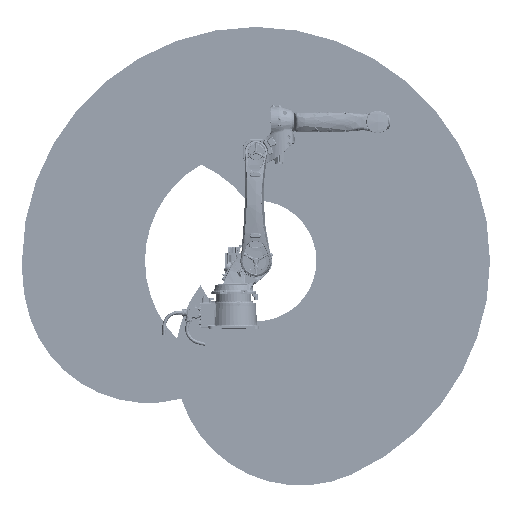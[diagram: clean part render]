
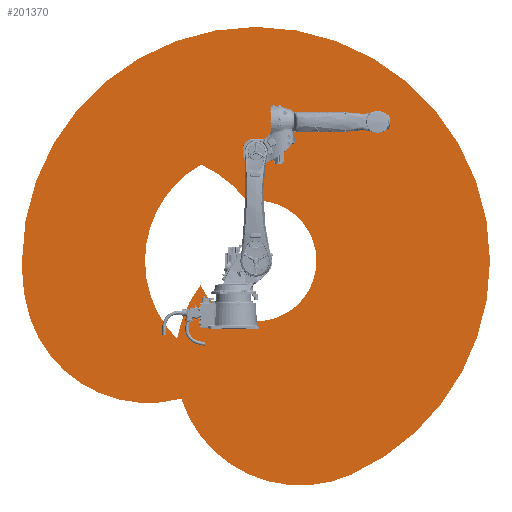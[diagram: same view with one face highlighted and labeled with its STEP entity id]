
A CAD part, front view. The second image highlights one B-rep face of the part: STEP entity #201370.
In plain terms, the highlighted planar face has unit normal (0, -1, 0) as drawn and (0, 0, 1) by its records, which use the part's own axes.
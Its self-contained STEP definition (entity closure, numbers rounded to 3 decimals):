
#66702 = FACE_BOUND ( 'NONE', #368240, .T. ) ;
#66752 = FACE_OUTER_BOUND ( 'NONE', #368938, .T. ) ;
#87741 = DIRECTION ( 'NONE',  ( 0., 0., -1. ) ) ;
#87754 = CARTESIAN_POINT ( 'NONE',  ( 0., 0., 0.001 ) ) ;
#87803 = DIRECTION ( 'NONE',  ( -1., 0., 0. ) ) ;
#88287 = CARTESIAN_POINT ( 'NONE',  ( 317.255, -712.565, 0.001 ) ) ;
#88319 = DIRECTION ( 'NONE',  ( 0., 0., -1. ) ) ;
#88351 = DIRECTION ( 'NONE',  ( -1., 0., 0. ) ) ;
#88373 = CARTESIAN_POINT ( 'NONE',  ( 317.255, -712.565, 0.001 ) ) ;
#88378 = DIRECTION ( 'NONE',  ( 0., 0., -1. ) ) ;
#88554 = CARTESIAN_POINT ( 'NONE',  ( 0., 0., 0.001 ) ) ;
#88590 = DIRECTION ( 'NONE',  ( 0., 0., -1. ) ) ;
#88611 = DIRECTION ( 'NONE',  ( -1., 0., 0. ) ) ;
#88617 = DIRECTION ( 'NONE',  ( -1., 0., 0. ) ) ;
#88633 = DIRECTION ( 'NONE',  ( 0., 0., -1. ) ) ;
#88688 = CARTESIAN_POINT ( 'NONE',  ( 0., 0., 0.001 ) ) ;
#88760 = DIRECTION ( 'NONE',  ( 0., 0., -1. ) ) ;
#88766 = DIRECTION ( 'NONE',  ( -1., 0., 0. ) ) ;
#88938 = DIRECTION ( 'NONE',  ( -1., 0., 0. ) ) ;
#88952 = CARTESIAN_POINT ( 'NONE',  ( 0., 0., 0.001 ) ) ;
#89527 = CARTESIAN_POINT ( 'NONE',  ( 0., 0., 0.001 ) ) ;
#89537 = DIRECTION ( 'NONE',  ( -1., 0., 0. ) ) ;
#89558 = DIRECTION ( 'NONE',  ( 0., 0., -1. ) ) ;
#89646 = DIRECTION ( 'NONE',  ( 0., 0., -1. ) ) ;
#89754 = CARTESIAN_POINT ( 'NONE',  ( -770.397, -122.019, 0.001 ) ) ;
#89897 = DIRECTION ( 'NONE',  ( -1., 0., 0. ) ) ;
#91357 = DIRECTION ( 'NONE',  ( -1., 0., 0. ) ) ;
#91363 = CARTESIAN_POINT ( 'NONE',  ( -770.397, -122.019, 0.001 ) ) ;
#91591 = DIRECTION ( 'NONE',  ( 0., 0., -1. ) ) ;
#92864 = CARTESIAN_POINT ( 'NONE',  ( 0., 0., 0.001 ) ) ;
#93091 = DIRECTION ( 'NONE',  ( 0., 0., -1. ) ) ;
#93185 = DIRECTION ( 'NONE',  ( -1., 0., 0. ) ) ;
#201370 = ADVANCED_FACE ( 'NONE', ( #66702, #66752 ), #849771, .F. ) ;
#208270 = EDGE_CURVE ( 'NONE', #254564, #254965, #749786, .T. ) ;
#208418 = EDGE_CURVE ( 'NONE', #254664, #254761, #750074, .T. ) ;
#208450 = EDGE_CURVE ( 'NONE', #254922, #254761, #750102, .T. ) ;
#208479 = EDGE_CURVE ( 'NONE', #253935, #256757, #749986, .T. ) ;
#208525 = EDGE_CURVE ( 'NONE', #254965, #254050, #750000, .T. ) ;
#208539 = EDGE_CURVE ( 'NONE', #254050, #253935, #750185, .T. ) ;
#208704 = EDGE_CURVE ( 'NONE', #255409, #255334, #750233, .T. ) ;
#208744 = EDGE_CURVE ( 'NONE', #256757, #254564, #750439, .T. ) ;
#208989 = EDGE_CURVE ( 'NONE', #255334, #254922, #751247, .T. ) ;
#209219 = EDGE_CURVE ( 'NONE', #254664, #255409, #751460, .T. ) ;
#253935 = VERTEX_POINT ( 'NONE', #644200 ) ;
#254050 = VERTEX_POINT ( 'NONE', #644421 ) ;
#254564 = VERTEX_POINT ( 'NONE', #644462 ) ;
#254664 = VERTEX_POINT ( 'NONE', #644386 ) ;
#254761 = VERTEX_POINT ( 'NONE', #644617 ) ;
#254922 = VERTEX_POINT ( 'NONE', #644584 ) ;
#254965 = VERTEX_POINT ( 'NONE', #644815 ) ;
#255334 = VERTEX_POINT ( 'NONE', #644558 ) ;
#255409 = VERTEX_POINT ( 'NONE', #644803 ) ;
#256757 = VERTEX_POINT ( 'NONE', #645136 ) ;
#368240 = EDGE_LOOP ( 'NONE', ( #648538, #648037, #648981, #649100, #649521 ) ) ;
#368938 = EDGE_LOOP ( 'NONE', ( #648309, #648898, #648872, #649183, #649025 ) ) ;
#644200 = CARTESIAN_POINT ( 'NONE',  ( 682.03, -1531.14, 0.001 ) ) ;
#644386 = CARTESIAN_POINT ( 'NONE',  ( -565.624, -558.777, 0.001 ) ) ;
#644421 = CARTESIAN_POINT ( 'NONE',  ( 1676.172, 0., 0.001 ) ) ;
#644462 = CARTESIAN_POINT ( 'NONE',  ( -1655.582, -261.92, 0.001 ) ) ;
#644558 = CARTESIAN_POINT ( 'NONE',  ( -393.343, 690.973, 0.001 ) ) ;
#644584 = CARTESIAN_POINT ( 'NONE',  ( -63.061, 428.254, 0.001 ) ) ;
#644617 = CARTESIAN_POINT ( 'NONE',  ( -397.341, -171.752, 0.001 ) ) ;
#644706 = AXIS2_PLACEMENT_3D ( 'NONE', #88287, #88378, #88611 ) ;
#644783 = AXIS2_PLACEMENT_3D ( 'NONE', #88554, #88319, #88617 ) ;
#644796 = AXIS2_PLACEMENT_3D ( 'NONE', #88373, #88590, #88351 ) ;
#644803 = CARTESIAN_POINT ( 'NONE',  ( -795.086, 0., 0.001 ) ) ;
#644815 = CARTESIAN_POINT ( 'NONE',  ( -1676.172, 0., 0.001 ) ) ;
#645012 = AXIS2_PLACEMENT_3D ( 'NONE', #89527, #89558, #89537 ) ;
#645035 = AXIS2_PLACEMENT_3D ( 'NONE', #89754, #89646, #89897 ) ;
#645063 = AXIS2_PLACEMENT_3D ( 'NONE', #88688, #88633, #88938 ) ;
#645070 = AXIS2_PLACEMENT_3D ( 'NONE', #88952, #88760, #88766 ) ;
#645077 = AXIS2_PLACEMENT_3D ( 'NONE', #87754, #87741, #87803 ) ;
#645136 = CARTESIAN_POINT ( 'NONE',  ( -535.876, -986.961, 0.001 ) ) ;
#645442 = AXIS2_PLACEMENT_3D ( 'NONE', #91363, #91591, #91357 ) ;
#645508 = AXIS2_PLACEMENT_3D ( 'NONE', #92864, #93091, #93185 ) ;
#648037 = ORIENTED_EDGE ( 'NONE', *, *, #208450, .T. ) ;
#648309 = ORIENTED_EDGE ( 'NONE', *, *, #208270, .F. ) ;
#648538 = ORIENTED_EDGE ( 'NONE', *, *, #208989, .T. ) ;
#648872 = ORIENTED_EDGE ( 'NONE', *, *, #208479, .F. ) ;
#648898 = ORIENTED_EDGE ( 'NONE', *, *, #208744, .F. ) ;
#648981 = ORIENTED_EDGE ( 'NONE', *, *, #208418, .F. ) ;
#649025 = ORIENTED_EDGE ( 'NONE', *, *, #208525, .F. ) ;
#649100 = ORIENTED_EDGE ( 'NONE', *, *, #209219, .T. ) ;
#649183 = ORIENTED_EDGE ( 'NONE', *, *, #208539, .F. ) ;
#649521 = ORIENTED_EDGE ( 'NONE', *, *, #208704, .T. ) ;
#749786 = CIRCLE ( 'NONE', #645077, 1676.172 ) ;
#749986 = CIRCLE ( 'NONE', #644796, 896.172 ) ;
#750000 = CIRCLE ( 'NONE', #645063, 1676.172 ) ;
#750074 = CIRCLE ( 'NONE', #644706, 896.172 ) ;
#750102 = CIRCLE ( 'NONE', #644783, 432.872 ) ;
#750185 = CIRCLE ( 'NONE', #645070, 1676.172 ) ;
#750233 = CIRCLE ( 'NONE', #645012, 795.086 ) ;
#750439 = CIRCLE ( 'NONE', #645035, 896.172 ) ;
#751247 = CIRCLE ( 'NONE', #645442, 896.172 ) ;
#751460 = CIRCLE ( 'NONE', #645508, 795.086 ) ;
#849468 = CARTESIAN_POINT ( 'NONE',  ( -226.571, -417.292, 0.001 ) ) ;
#849524 = DIRECTION ( 'NONE',  ( -1., 0., 0. ) ) ;
#849735 = DIRECTION ( 'NONE',  ( 0., 0., -1. ) ) ;
#849771 = PLANE ( 'NONE',  #893196 ) ;
#893196 = AXIS2_PLACEMENT_3D ( 'NONE', #849468, #849735, #849524 ) ;
